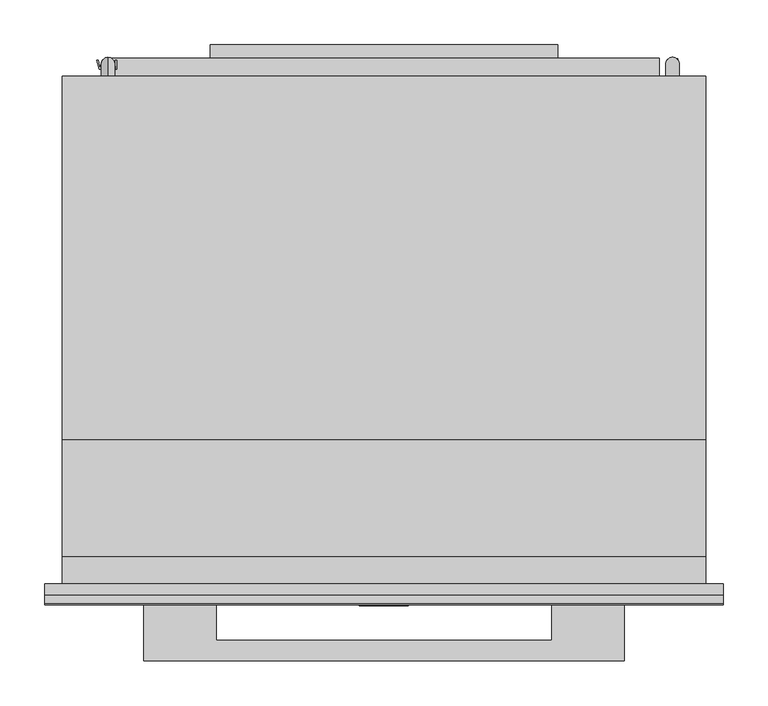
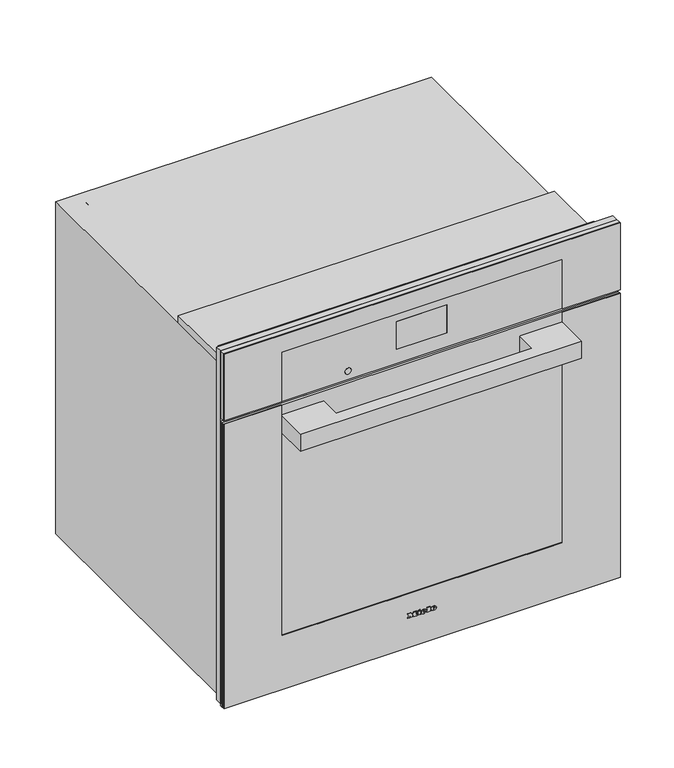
"""IFC4 building model written with IfcOpenShell, lengths in millimetres: proxy geometry, 11805540_USA_H7580BP_EDST-CLST : 22758045_USA_11805540_H7580BP_EDST-CLST."""

from ifc_helpers import new_model, si_unit, point, frame, frame_2d, origin, place, context, project, spatial, polyline, circle_curve, ellipse_curve, trimmed, segment, composite_curve, outline, extrude, faceted_brep, source, transform, mapped, element, save
from ifc_brep_helpers import plane_surface, cylinder_surface, revolved_surface, extruded_surface, advanced_brep


def specialty_equipment_c50387fd(model_context):
    return source(origin(), model_context, "Body", "SolidModel", [
        advanced_brep(
        [(21.28, -24.3, 73.133), (21.28, -24.3, 74.042), (27.301, -24.3, 74.042), (16.825, -24.3, 74.042), (19.3, -24.3, 71.0), (27.148, -24.3, 73.133), (24.43, -24.3, 73.133), (22.288, -24.3, 72.125), (21.28, -24.3, 75.194), (21.28, -24.3, 76.175), (22.819, -24.3, 76.175), (22.819, -24.3, 75.194), (21.28, -23.3, 73.133), (22.288, -23.3, 72.125), (24.43, -23.3, 73.133), (27.148, -23.3, 73.133), (19.3, -23.3, 71.0), (16.825, -23.3, 74.042), (27.301, -23.3, 74.042), (21.28, -23.3, 74.042), (21.28, -23.3, 75.194), (22.819, -23.3, 75.194), (22.819, -23.3, 76.175), (21.28, -23.3, 76.175)],
        [
            (0, 1),
            (1, 2),
            (2, 3, ellipse_curve(frame((22.063, -24.3, 74.042), z_axis=(0.0, -1.0, 0.0), x_axis=(-1.0, 0.0, 0.0)), 5.238, 4.329)),
            (3, 4, circle_curve(frame((20.3080491, -24.3, 74.348), z_axis=(0.0, -1.0, 0.0), x_axis=(0.0, 0.0, -1.0)), 3.4964649)),
            (4, 5, circle_curve(frame((21.9581428, -24.3, 76.724), z_axis=(0.0, -1.0, 0.0), x_axis=(0.0, 0.0, -1.0)), 6.3110933)),
            (5, 6),
            (6, 7, circle_curve(frame((22.7279412, -24.3, 73.97), z_axis=(0.0, 1.0, 0.0), x_axis=(0.0, 0.0, -1.0)), 1.896727)),
            (7, 0, circle_curve(frame((22.288, -24.3, 73.133), z_axis=(0.0, 1.0, 0.0), x_axis=(0.0, 0.0, -1.0)), 1.008)),
            (8, 9),
            (9, 10, circle_curve(frame((22.0495, -24.3, 76.175), z_axis=(0.0, 1.0, 0.0), x_axis=(0.0, 0.0, -1.0)), 0.7695)),
            (10, 11),
            (11, 8),
            (12, 13, circle_curve(frame((22.288, -23.3, 73.133), z_axis=(0.0, -1.0, 0.0), x_axis=(0.0, 0.0, -1.0)), 1.008)),
            (13, 14, circle_curve(frame((22.7279412, -23.3, 73.97), z_axis=(0.0, -1.0, 0.0), x_axis=(0.0, 0.0, -1.0)), 1.896727)),
            (14, 15),
            (15, 16, circle_curve(frame((21.9581428, -23.3, 76.724), z_axis=(0.0, 1.0, 0.0), x_axis=(0.0, 0.0, -1.0)), 6.3110933)),
            (16, 17, circle_curve(frame((20.3080491, -23.3, 74.348), z_axis=(0.0, 1.0, 0.0), x_axis=(0.0, 0.0, -1.0)), 3.4964649)),
            (17, 18, ellipse_curve(frame((22.063, -23.3, 74.042), z_axis=(0.0, 1.0, 0.0), x_axis=(-1.0, 0.0, 0.0)), 5.238, 4.329)),
            (18, 19),
            (19, 12),
            (20, 21),
            (21, 22),
            (22, 23, circle_curve(frame((22.0495, -23.3, 76.175), z_axis=(0.0, -1.0, 0.0), x_axis=(0.0, 0.0, -1.0)), 0.7695)),
            (23, 20),
            (0, 12),
            (19, 1),
            (18, 2),
            (5, 15),
            (14, 6),
            (17, 3),
            (13, 7),
            (16, 4),
            (8, 20),
            (23, 9),
            (22, 10),
            (21, 11),
        ],
        [
            plane_surface(frame((21.28, -24.3, 74.042), z_axis=(0.0, -1.0, 0.0), x_axis=(0.0, 0.0, 1.0))),
            plane_surface(frame((21.28, -23.3, 74.042), z_axis=(0.0, 1.0, 0.0), x_axis=(0.0, 0.0, -1.0))),
            plane_surface(frame((21.28, -24.3, 73.133), z_axis=(1.0, 0.0, 0.0), x_axis=(0.0, 1.0, 0.0))),
            plane_surface(frame((21.28, -24.3, 74.042), z_axis=(0.0, 0.0, -1.0), x_axis=(0.0, 1.0, 0.0))),
            plane_surface(frame((27.148, -24.3, 73.133), z_axis=(0.0, 0.0, 1.0), x_axis=(0.0, 1.0, 0.0))),
            extruded_surface(trimmed(ellipse_curve(frame((22.063, -22.3, 74.042), z_axis=(0.0, -1.0, 0.0), x_axis=(-1.0, 0.0, 0.0)), 5.238, 4.329), [point((27.301, -22.3, 74.042))], [point((16.825, -22.3, 74.042))], True, "CARTESIAN"), (0.0, -1.0, 0.0), 1.0),
            revolved_surface(polyline([(22.7279412, -23.3, 72.073273), (22.7279412, -24.3, 72.073273)]), (22.7279412, -23.3, 73.97), (0.0, 1.0, 0.0)),
            revolved_surface(polyline([(22.288, -23.3, 72.125), (22.288, -24.3, 72.125)]), (22.288, -23.3, 73.133), (0.0, 1.0, 0.0)),
            cylinder_surface(frame((20.3080491, -23.3, 74.348), z_axis=(0.0, -1.0, 0.0), x_axis=(0.0, 0.0, -1.0)), 3.4964649),
            cylinder_surface(frame((21.9581428, -23.3, 76.724), z_axis=(0.0, -1.0, 0.0), x_axis=(0.0, 0.0, -1.0)), 6.3110933),
            plane_surface(frame((21.28, -24.3, 75.194), z_axis=(1.0, 0.0, 0.0), x_axis=(0.0, 1.0, 0.0))),
            revolved_surface(polyline([(22.0495, -23.3, 75.4055), (22.0495, -24.3, 75.4055)]), (22.0495, -23.3, 76.175), (0.0, 1.0, 0.0)),
            plane_surface(frame((22.819, -24.3, 76.175), z_axis=(-1.0, 0.0, 0.0), x_axis=(0.0, 1.0, 0.0))),
            plane_surface(frame((22.819, -24.3, 75.194), z_axis=(0.0, 0.0, 1.0), x_axis=(0.0, 1.0, 0.0))),
        ],
        [
            (0, [[1, 2, 3, 4, 5, 6, 7, 8], [9, 10, 11, 12]]),
            (1, [[13, 14, 15, 16, 17, 18, 19, 20], [21, 22, 23, 24]]),
            (2, [[-1, 25, -20, 26]]),
            (3, [[-2, -26, -19, 27]]),
            (4, [[-6, 28, -15, 29]]),
            (5, [[-3, -27, -18, 30]]),
            (6, [[-7, -29, -14, 31]]),
            (7, [[-8, -31, -13, -25]]),
            (8, [[-4, -30, -17, 32]]),
            (9, [[-5, -32, -16, -28]]),
            (10, [[-9, 33, -24, 34]]),
            (11, [[-10, -34, -23, 35]]),
            (12, [[-11, -35, -22, 36]]),
            (13, [[-12, -36, -21, -33]]),
        ],
    ),
        advanced_brep(
        [(2.497, -24.3, 73.133), (2.497, -24.3, 74.042), (8.518, -24.3, 74.042), (-1.958, -24.3, 74.042), (0.517, -24.3, 71.0), (8.365, -24.3, 73.133), (5.647, -24.3, 73.133), (3.505, -24.3, 72.125), (2.497, -24.3, 75.194), (2.497, -24.3, 76.175), (4.036, -24.3, 76.175), (4.036, -24.3, 75.194), (2.497, -23.3, 73.133), (3.505, -23.3, 72.125), (5.647, -23.3, 73.133), (8.365, -23.3, 73.133), (0.517, -23.3, 71.0), (-1.958, -23.3, 74.042), (8.518, -23.3, 74.042), (2.497, -23.3, 74.042), (2.497, -23.3, 75.194), (4.036, -23.3, 75.194), (4.036, -23.3, 76.175), (2.497, -23.3, 76.175)],
        [
            (0, 1),
            (1, 2),
            (2, 3, ellipse_curve(frame((3.28, -24.3, 74.042), z_axis=(0.0, -1.0, 0.0), x_axis=(-1.0, 0.0, 0.0)), 5.238, 4.329)),
            (3, 4, circle_curve(frame((1.5250491, -24.3, 74.348), z_axis=(0.0, -1.0, 0.0), x_axis=(0.0, 0.0, -1.0)), 3.4964649)),
            (4, 5, circle_curve(frame((3.1751428, -24.3, 76.724), z_axis=(0.0, -1.0, 0.0), x_axis=(0.0, 0.0, -1.0)), 6.3110933)),
            (5, 6),
            (6, 7, circle_curve(frame((3.9449412, -24.3, 73.97), z_axis=(0.0, 1.0, 0.0), x_axis=(0.0, 0.0, -1.0)), 1.896727)),
            (7, 0, circle_curve(frame((3.505, -24.3, 73.133), z_axis=(0.0, 1.0, 0.0), x_axis=(0.0, 0.0, -1.0)), 1.008)),
            (8, 9),
            (9, 10, circle_curve(frame((3.2665, -24.3, 76.175), z_axis=(0.0, 1.0, 0.0), x_axis=(0.0, 0.0, -1.0)), 0.7695)),
            (10, 11),
            (11, 8),
            (12, 13, circle_curve(frame((3.505, -23.3, 73.133), z_axis=(0.0, -1.0, 0.0), x_axis=(0.0, 0.0, -1.0)), 1.008)),
            (13, 14, circle_curve(frame((3.9449412, -23.3, 73.97), z_axis=(0.0, -1.0, 0.0), x_axis=(0.0, 0.0, -1.0)), 1.896727)),
            (14, 15),
            (15, 16, circle_curve(frame((3.1751428, -23.3, 76.724), z_axis=(0.0, 1.0, 0.0), x_axis=(0.0, 0.0, -1.0)), 6.3110933)),
            (16, 17, circle_curve(frame((1.5250491, -23.3, 74.348), z_axis=(0.0, 1.0, 0.0), x_axis=(0.0, 0.0, -1.0)), 3.4964649)),
            (17, 18, ellipse_curve(frame((3.28, -23.3, 74.042), z_axis=(0.0, 1.0, 0.0), x_axis=(-1.0, 0.0, 0.0)), 5.238, 4.329)),
            (18, 19),
            (19, 12),
            (20, 21),
            (21, 22),
            (22, 23, circle_curve(frame((3.2665, -23.3, 76.175), z_axis=(0.0, -1.0, 0.0), x_axis=(0.0, 0.0, -1.0)), 0.7695)),
            (23, 20),
            (0, 12),
            (19, 1),
            (18, 2),
            (5, 15),
            (14, 6),
            (17, 3),
            (13, 7),
            (16, 4),
            (8, 20),
            (23, 9),
            (22, 10),
            (21, 11),
        ],
        [
            plane_surface(frame((2.497, -24.3, 74.042), z_axis=(0.0, -1.0, 0.0), x_axis=(0.0, 0.0, 1.0))),
            plane_surface(frame((2.497, -23.3, 74.042), z_axis=(0.0, 1.0, 0.0), x_axis=(0.0, 0.0, -1.0))),
            plane_surface(frame((2.497, -24.3, 73.133), z_axis=(1.0, 0.0, 0.0), x_axis=(0.0, 1.0, 0.0))),
            plane_surface(frame((2.497, -24.3, 74.042), z_axis=(0.0, 0.0, -1.0), x_axis=(0.0, 1.0, 0.0))),
            plane_surface(frame((8.365, -24.3, 73.133), z_axis=(0.0, 0.0, 1.0), x_axis=(0.0, 1.0, 0.0))),
            extruded_surface(trimmed(ellipse_curve(frame((3.28, -22.3, 74.042), z_axis=(0.0, -1.0, 0.0), x_axis=(-1.0, 0.0, 0.0)), 5.238, 4.329), [point((8.518, -22.3, 74.042))], [point((-1.958, -22.3, 74.042))], True, "CARTESIAN"), (0.0, -1.0, 0.0), 1.0),
            revolved_surface(polyline([(3.9449412, -23.3, 72.073273), (3.9449412, -24.3, 72.073273)]), (3.9449412, -23.3, 73.97), (0.0, 1.0, 0.0)),
            revolved_surface(polyline([(3.505, -23.3, 72.125), (3.505, -24.3, 72.125)]), (3.505, -23.3, 73.133), (0.0, 1.0, 0.0)),
            cylinder_surface(frame((1.5250491, -23.3, 74.348), z_axis=(0.0, -1.0, 0.0), x_axis=(0.0, 0.0, -1.0)), 3.4964649),
            cylinder_surface(frame((3.1751428, -23.3, 76.724), z_axis=(0.0, -1.0, 0.0), x_axis=(0.0, 0.0, -1.0)), 6.3110933),
            plane_surface(frame((2.497, -24.3, 75.194), z_axis=(1.0, 0.0, 0.0), x_axis=(0.0, 1.0, 0.0))),
            revolved_surface(polyline([(3.2665, -23.3, 75.4055), (3.2665, -24.3, 75.4055)]), (3.2665, -23.3, 76.175), (0.0, 1.0, 0.0)),
            plane_surface(frame((4.036, -24.3, 76.175), z_axis=(-1.0, 0.0, 0.0), x_axis=(0.0, 1.0, 0.0))),
            plane_surface(frame((4.036, -24.3, 75.194), z_axis=(0.0, 0.0, 1.0), x_axis=(0.0, 1.0, 0.0))),
        ],
        [
            (0, [[1, 2, 3, 4, 5, 6, 7, 8], [9, 10, 11, 12]]),
            (1, [[13, 14, 15, 16, 17, 18, 19, 20], [21, 22, 23, 24]]),
            (2, [[-1, 25, -20, 26]]),
            (3, [[-2, -26, -19, 27]]),
            (4, [[-6, 28, -15, 29]]),
            (5, [[-3, -27, -18, 30]]),
            (6, [[-7, -29, -14, 31]]),
            (7, [[-8, -31, -13, -25]]),
            (8, [[-4, -30, -17, 32]]),
            (9, [[-5, -32, -16, -28]]),
            (10, [[-9, 33, -24, 34]]),
            (11, [[-10, -34, -23, 35]]),
            (12, [[-11, -35, -22, 36]]),
            (13, [[-12, -36, -21, -33]]),
        ],
    ),
        extrude(outline(polyline([(79.469, -7.34), (78.011, -6.656), (79.433, -3.605), (80.891, -4.28), (79.469, -7.34)])), frame((0.0, -24.3, 0.0), z_axis=(0.0, 1.0, 0.0), x_axis=(0.0, 0.0, 1.0)), (0.0, 0.0, 1.0), 1.0),
        extrude(outline(polyline([(77.813, -9.563), (76.202, -9.563), (76.202, -8.492), (72.512, -8.492), (72.512, -9.563), (71.0, -9.563), (71.0, -2.462), (72.512, -2.462), (72.512, -3.506), (77.813, -3.506), (77.813, -9.563)])), frame((0.0, -24.3, 0.0), z_axis=(0.0, 1.0, 0.0), x_axis=(0.0, 0.0, 1.0)), (0.0, 0.0, 1.0), 1.0),
        extrude(outline(polyline([(78.533, 9.022), (78.533, 10.102), (72.512, 10.102), (72.512, 9.022), (71.0, 9.022), (71.0, 16.321), (72.512, 16.321), (72.512, 15.214), (80.0, 15.214), (80.0, 9.022), (78.533, 9.022)])), frame((0.0, -24.3, 0.0), z_axis=(0.0, 1.0, 0.0), x_axis=(0.0, 0.0, 1.0)), (0.0, 0.0, 1.0), 1.0),
        extrude(outline(polyline([(78.533, -27.5), (78.533, -26.411), (72.512, -26.411), (72.512, -27.5), (71.0, -27.5), (71.0, -23.54), (72.512, -23.54), (72.512, -24.62), (76.3341247, -24.62), (71.0, -20.597), (76.4402223, -16.556), (72.512, -16.556), (72.512, -17.663), (71.0, -17.663), (71.0, -10.481), (72.512, -10.481), (72.512, -11.624), (78.533, -11.624), (78.533, -10.481), (80.0, -10.481), (80.0, -15.962), (76.625, -18.59), (80.0, -21.227), (80.0, -27.5), (78.533, -27.5)])), frame((0.0, -24.3, 0.0), z_axis=(0.0, 1.0, 0.0), x_axis=(0.0, 0.0, 1.0)), (0.0, 0.0, 1.0), 1.0),
        extrude(outline(polyline([(585.0, -268.5), (585.0, -378.5), (11.0, -378.5), (11.0, 378.5), (585.0, 378.5), (585.0, 268.5), (120.0, 268.5), (120.0, -268.5), (585.0, -268.5)])), frame((0.0, -23.3, 0.0), z_axis=(0.0, 1.0, 0.0), x_axis=(0.0, 0.0, 1.0)), (0.0, 0.0, 1.0), 1.3),
        extrude(outline(polyline([(378.5, -22.0), (-378.5, -22.0), (-378.5, -18.0), (378.5, -18.0), (378.5, -22.0)])), frame((0.0, 0.0, 11.0), z_axis=(0.0, 0.0, 1.0), x_axis=(1.0, 0.0, 0.0)), (0.0, 0.0, 1.0), 574.0),
        extrude(outline(polyline([(-187.0, -22.0), (-187.0, -63.0), (187.0, -63.0), (187.0, -22.0), (268.0, -22.0), (268.0, -86.0), (-268.0, -86.0), (-268.0, -22.0), (-187.0, -22.0)])), frame((0.0, 0.0, 530.0), z_axis=(0.0, 0.0, 1.0), x_axis=(1.0, 0.0, 0.0)), (0.0, 0.0, 1.0), 35.0),
        extrude(outline(polyline([(378.5, -18.0), (-378.5, -18.0), (-378.5, -13.0), (378.5, -13.0), (378.5, -18.0)])), frame((0.0, 0.0, 11.0), z_axis=(0.0, 0.0, 1.0), x_axis=(1.0, 0.0, 0.0)), (0.0, 0.0, 1.0), 574.0),
        extrude(outline(polyline([(-250.5, -18.0), (250.5, -18.0), (250.5, -22.0), (-250.5, -22.0), (-250.5, -18.0)])), frame((0.0, 0.0, 150.0), z_axis=(0.0, 0.0, 1.0), x_axis=(1.0, 0.0, 0.0)), (0.0, 0.0, 1.0), 344.0),
        extrude(outline(polyline([(727.0, -378.5), (592.0, -378.5), (592.0, -268.5), (692.0, -268.5), (692.0, 268.5), (592.0, 268.5), (592.0, 378.5), (727.0, 378.5), (727.0, -378.5)])), frame((0.0, -23.3, 0.0), z_axis=(0.0, 1.0, 0.0), x_axis=(0.0, 0.0, 1.0)), (0.0, 0.0, 1.0), 1.3),
        extrude(outline(polyline([(-48.0, -21.0), (48.0, -21.0), (48.0, -22.0), (-48.0, -22.0), (-48.0, -21.0)])), frame((0.0, 0.0, 620.0), z_axis=(0.0, 0.0, 1.0), x_axis=(1.0, 0.0, 0.0)), (0.0, 0.0, 1.0), 56.0),
        faceted_brep([(378.5, -22.0, 727.0), (-378.5, -22.0, 727.0), (-378.5, -22.0, 592.0), (378.5, -22.0, 592.0), (48.0, -22.0, 676.0), (48.0, -22.0, 620.0), (-48.0, -22.0, 620.0), (-48.0, -22.0, 676.0), (378.5, -13.0, 727.0), (378.5, -13.0, 592.0), (-378.5, -13.0, 592.0), (-378.5, -13.0, 727.0), (48.0, -21.0, 676.0), (-48.0, -21.0, 676.0), (-48.0, -21.0, 620.0), (48.0, -21.0, 620.0)], [[[0, 1, 2, 3], [4, 5, 6, 7]], [[8, 9, 10, 11]], [[1, 0, 8, 11]], [[2, 1, 11, 10]], [[3, 2, 10, 9]], [[0, 3, 9, 8]], [[12, 13, 14, 15]], [[12, 15, 5, 4]], [[15, 14, 6, 5]], [[14, 13, 7, 6]], [[13, 12, 4, 7]]]),
        extrude(outline(composite_curve([segment(trimmed(circle_curve(frame_2d((609.0, -140.5745637)), 6.0), [point((609.0, -146.5745637))], [point((609.0, -134.5745637))], False, "CARTESIAN"), True, "CONTINUOUS"), segment(trimmed(circle_curve(frame_2d((609.0, -140.5745637)), 6.0), [point((609.0, -134.5745637))], [point((609.0, -146.5745637))], False, "CARTESIAN"), True, "CONTINUOUS")], self_intersect=False)), frame((0.0, -22.5, 0.0), z_axis=(0.0, 1.0, 0.0), x_axis=(0.0, 0.0, 1.0)), (0.0, 0.0, 1.0), 1.0),
        extrude(outline(polyline([(327.856335, 586.4164958), (327.856335, 576.4164958), (322.0, 576.4164958), (322.0, 577.4164958), (326.856335, 577.4164958), (326.856335, 580.9164958), (323.9061855, 580.9164958), (323.9061855, 581.9164958), (326.856335, 581.9164958), (326.856335, 585.4164958), (322.0, 585.4164958), (322.0, 586.4164958), (327.856335, 586.4164958)])), frame((0.0, 0.0, 585.0), z_axis=(0.0, 0.0, 1.0), x_axis=(1.0, 0.0, 0.0)), (0.0, 0.0, 1.0), 1.0),
        extrude(outline(polyline([(320.5, 576.4164958), (315.5, 576.4164958), (315.5, 577.4164958), (319.3952098, 577.4164958), (319.3952098, 586.4164958), (320.5, 586.4164958), (320.5, 576.4164958)])), frame((0.0, 0.0, 585.0), z_axis=(0.0, 0.0, 1.0), x_axis=(1.0, 0.0, 0.0)), (0.0, 0.0, 1.0), 1.0),
        advanced_brep(
        [(329.5, 567.0, 616.0), (314.5, 567.0, 616.0), (329.5, 580.5, 616.0), (314.5, 580.5, 616.0), (329.5, 580.5, 586.0), (314.5, 580.5, 586.0)],
        [
            (0, 1, circle_curve(frame((322.0, 567.0, 616.0), z_axis=(0.0, -1.0, 0.0), x_axis=(-1.0, 0.0, 0.0)), 7.5)),
            (1, 0, circle_curve(frame((322.0, 567.0, 616.0), z_axis=(0.0, -1.0, 0.0), x_axis=(-1.0, 0.0, 0.0)), 7.5)),
            (0, 2),
            (2, 3, ellipse_curve(frame((322.0, 580.5, 616.0), z_axis=(0.0, -0.7071067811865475, 0.7071067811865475), x_axis=(0.0, -0.7071067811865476, -0.7071067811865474)), 10.6066017, 7.5)),
            (3, 1),
            (3, 2, ellipse_curve(frame((322.0, 580.5, 616.0), z_axis=(0.0, -0.7071067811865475, 0.7071067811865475), x_axis=(0.0, -0.7071067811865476, -0.7071067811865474)), 10.6066017, 7.5)),
            (4, 5, circle_curve(frame((322.0, 580.5, 586.0), z_axis=(0.0, 0.0, -1.0), x_axis=(-1.0, 0.0, 0.0)), 7.5)),
            (5, 4, circle_curve(frame((322.0, 580.5, 586.0), z_axis=(0.0, 0.0, -1.0), x_axis=(-1.0, 0.0, 0.0)), 7.5)),
            (2, 4),
            (5, 3),
        ],
        [
            plane_surface(frame((322.0, 567.0, 616.0), z_axis=(0.0, -1.0, 0.0), x_axis=(-1.0, 0.0, 0.0))),
            cylinder_surface(frame((322.0, 567.0, 616.0), z_axis=(0.0, -1.0, 0.0), x_axis=(-1.0, 0.0, 0.0)), 7.5),
            plane_surface(frame((322.0, 580.5, 586.0), z_axis=(0.0, 0.0, -1.0), x_axis=(-1.0, 0.0, 0.0))),
            cylinder_surface(frame((322.0, 580.5, 616.0), z_axis=(0.0, 0.0, 1.0), x_axis=(-1.0, 0.0, 0.0)), 7.5),
        ],
        [
            (0, [[1, 2]]),
            (1, [[-1, 3, 4, 5]]),
            (1, [[-2, -5, 6, -3]]),
            (2, [[7, 8]]),
            (3, [[-4, 9, -8, 10]]),
            (3, [[-6, -10, -7, -9]]),
        ],
    ),
        extrude(outline(polyline([(-299.6202453, 584.6579034), (-298.3679159, 584.6579034), (-298.3679159, 574.6085654), (-299.6149696, 574.6085654), (-299.6149696, 578.0788376), (-301.2450476, 579.7089156), (-305.0884371, 574.6085654), (-306.7066233, 574.6085654), (-302.2301778, 580.5490092), (-306.5150452, 584.6543198), (-304.7713587, 584.6543198), (-299.6202453, 579.7190632), (-299.6202453, 584.6579034)])), frame((0.0, 0.0, 614.0), z_axis=(0.0, 0.0, 1.0), x_axis=(1.0, 0.0, 0.0)), (0.0, 0.0, 1.0), 1.0),
        extrude(outline(polyline([(-307.9869589, 584.6543198), (-306.6749258, 584.6543198), (-309.4307199, 574.6085654), (-310.9513148, 574.6085654), (-313.5193527, 583.4401554), (-316.2529808, 574.6085654), (-317.6013152, 574.6085654), (-320.3417347, 584.6663082), (-319.072273, 584.6663082), (-316.9158246, 576.0172661), (-314.4357517, 584.6663082), (-312.5770153, 584.6663082), (-310.0671021, 576.0346114), (-307.9869589, 584.6543198)])), frame((0.0, 0.0, 614.0), z_axis=(0.0, 0.0, 1.0), x_axis=(1.0, 0.0, 0.0)), (0.0, 0.0, 1.0), 1.0),
        advanced_brep(
        [(-308.0, 573.0, 615.0), (-308.0, 588.0, 615.0), (-308.0, 573.0, 637.5), (-308.0, 588.0, 652.5), (-308.0, 559.0, 637.5), (-308.0, 559.0, 652.5)],
        [
            (0, 1, circle_curve(frame((-308.0, 580.5, 615.0), z_axis=(0.0, 0.0, -1.0), x_axis=(0.0, 1.0, 0.0)), 7.5)),
            (1, 0, circle_curve(frame((-308.0, 580.5, 615.0), z_axis=(0.0, 0.0, -1.0), x_axis=(0.0, 1.0, 0.0)), 7.5)),
            (0, 2),
            (2, 3, ellipse_curve(frame((-308.0, 580.5, 645.0), z_axis=(0.0, 0.7071067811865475, -0.7071067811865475), x_axis=(0.0, -0.7071067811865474, -0.7071067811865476)), 10.6066017, 7.5)),
            (3, 1),
            (3, 2, ellipse_curve(frame((-308.0, 580.5, 645.0), z_axis=(0.0, 0.7071067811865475, -0.7071067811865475), x_axis=(0.0, -0.7071067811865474, -0.7071067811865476)), 10.6066017, 7.5)),
            (4, 5, circle_curve(frame((-308.0, 559.0, 645.0), z_axis=(0.0, -1.0, 0.0), x_axis=(0.0, 0.0, 1.0)), 7.5)),
            (5, 4, circle_curve(frame((-308.0, 559.0, 645.0), z_axis=(0.0, -1.0, 0.0), x_axis=(0.0, 0.0, 1.0)), 7.5)),
            (2, 4),
            (5, 3),
        ],
        [
            plane_surface(frame((-308.0, 580.5, 615.0), z_axis=(0.0, 0.0, -1.0), x_axis=(-1.0, 0.0, 0.0))),
            cylinder_surface(frame((-308.0, 580.5, 615.0), z_axis=(0.0, 0.0, -1.0), x_axis=(0.0, 1.0, 0.0)), 7.5),
            plane_surface(frame((-308.0, 559.0, 645.0), z_axis=(0.0, -1.0, 0.0), x_axis=(-1.0, 0.0, 0.0))),
            cylinder_surface(frame((-308.0, 580.5, 645.0), z_axis=(0.0, 1.0, 0.0), x_axis=(0.0, 0.0, 1.0)), 7.5),
        ],
        [
            (0, [[1, 2]]),
            (1, [[-1, 3, 4, 5]]),
            (1, [[-2, -5, 6, -3]]),
            (2, [[7, 8]]),
            (3, [[-4, 9, -8, 10]]),
            (3, [[-6, -10, -7, -9]]),
        ],
    ),
        faceted_brep([(353.5, 25.0, 593.0), (-353.5, 25.0, 593.0), (-353.5, 25.0, 15.0), (353.5, 25.0, 15.0), (-312.5, 25.0, 526.0), (312.5, 25.0, 526.0), (312.5, 25.0, 103.0), (-312.5, 25.0, 103.0), (353.5, 0.0, 593.0), (-353.5, 0.0, 593.0), (-353.5, 0.0, 15.0), (353.5, 0.0, 15.0), (359.0, 0.0, 670.0), (359.0, 0.0, 0.0), (359.0, 567.0, 0.0), (359.0, 567.0, 670.0), (-359.0, 0.0, 0.0), (-359.0, 0.0, 670.0), (-359.0, 567.0, 670.0), (-359.0, 567.0, 0.0), (-307.0, 567.0, 0.0), (-307.0, 587.0, 0.0), (307.0, 587.0, 0.0), (307.0, 567.0, 0.0), (-307.0, 587.0, 584.0), (307.0, 587.0, 584.0), (312.5, 433.0, 526.0), (-312.5, 433.0, 526.0), (-312.5, 433.0, 103.0), (312.5, 433.0, 103.0), (-307.0, 567.0, 584.0), (307.0, 567.0, 584.0)], [[[0, 1, 2, 3], [4, 5, 6, 7]], [[1, 0, 8, 9]], [[2, 1, 9, 10]], [[0, 3, 11, 8]], [[12, 13, 14, 15]], [[16, 17, 18, 19]], [[13, 16, 19, 20, 21, 22, 23, 14]], [[22, 21, 24, 25]], [[17, 12, 15, 18]], [[16, 13, 12, 17], [9, 8, 11, 10]], [[26, 27, 28, 29]], [[27, 26, 5, 4]], [[28, 27, 4, 7]], [[29, 28, 7, 6]], [[26, 29, 6, 5]], [[3, 2, 10, 11]], [[25, 24, 30, 31]], [[20, 30, 24, 21]], [[14, 23, 31, 30, 20, 19, 18, 15]], [[31, 23, 22, 25]]]),
        extrude(outline(polyline([(-194.0, 602.0), (194.0, 602.0), (194.0, 587.0), (-194.0, 587.0), (-194.0, 602.0)])), frame((0.0, 0.0, 230.0), z_axis=(0.0, 0.0, 1.0), x_axis=(1.0, 0.0, 0.0)), (0.0, 0.0, 1.0), 158.0),
        extrude(outline(polyline([(30.0, 705.0), (30.0, 686.0), (161.0, 686.0), (161.0, 670.0), (0.0, 670.0), (0.0, 705.0), (30.0, 705.0)])), frame((-359.0, 0.0, 0.0), z_axis=(1.0, 0.0, 0.0), x_axis=(0.0, 1.0, 0.0)), (0.0, 0.0, 1.0), 718.0),
        extrude(outline(polyline([(15.0, 378.5), (727.0, 378.5), (727.0, -378.5), (15.0, -378.5), (15.0, -353.5), (593.0, -353.5), (593.0, 353.5), (15.0, 353.5), (15.0, 378.5)])), frame((0.0, -13.0, 0.0), z_axis=(0.0, 1.0, 0.0), x_axis=(0.0, 0.0, 1.0)), (0.0, 0.0, 1.0), 13.0),
    ])


if __name__ == "__main__":
    model = new_model("IFC4")
    model_context = context("Model", 3, world=origin())
    ifc_project = project(units=[si_unit("LENGTHUNIT", "METRE", prefix="MILLI")], contexts=[model_context])
    site = spatial("IfcSite", under=ifc_project)
    building = spatial("IfcBuilding", under=site)
    placement = place(None, origin())
    specialty_equipment_shape = specialty_equipment_c50387fd(model_context)
    element("IfcBuildingElementProxy", 1, Name="11805540_USA_H7580BP_EDST-CLST : 22758045_USA_11805540_H7580BP_EDST-CLST", ObjectType="11805540_USA_H7580BP_EDST-CLST : 22758045_USA_11805540_H7580BP_EDST-CLST", at=placement, inside=building, context=model_context, shape_type="MappedRepresentation", body=[
        mapped(specialty_equipment_shape, transform((0.0, 0.0, 0.0), x_axis=(1.0, 0.0, 0.0), y_axis=(0.0, 1.0, 0.0), z_axis=(0.0, 0.0, 1.0))),
    ])
    save(model, "model.ifc")
